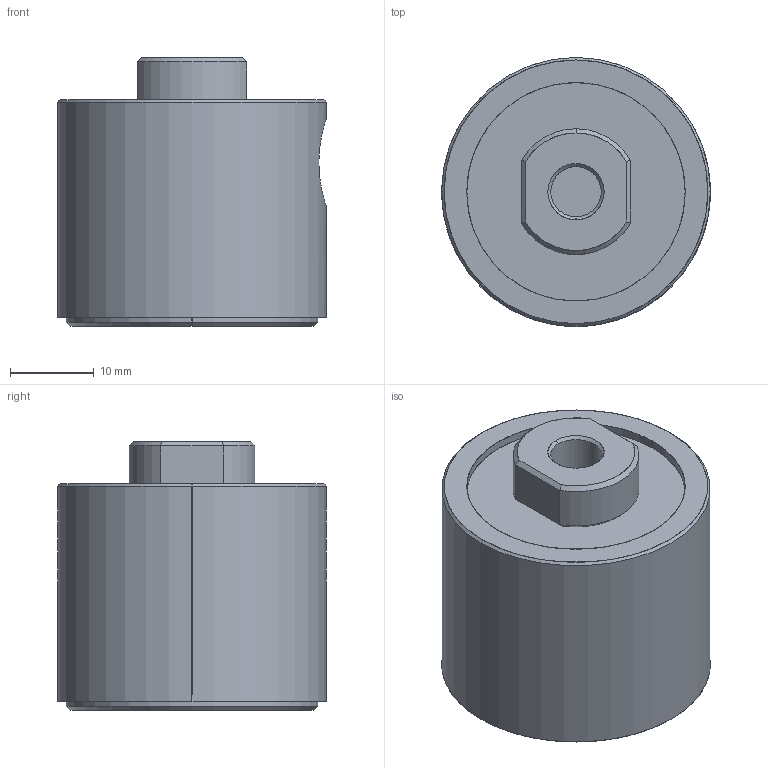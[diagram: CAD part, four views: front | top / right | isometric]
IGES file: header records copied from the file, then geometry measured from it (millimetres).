
Start section: SolidWorks IGES file using analytic representation for surfaces
Global section: file name: X:\11_SW2020-Inv2020\00_全2021-11新製品まで\q\QLPU200NR\qlpu200nr.IGS; native system: SolidWorks 2020; preprocessor: SolidWorks 2020; author: ImaoCorp; date: 211021.173201; units: millimetre
Bounding box: 32 x 32 x 32 mm (x, y, z)
Surface area: 9793.3 mm2 (no closed solid volume)
Topology: 0 solids, 0 shells, 93 faces, 1834 edges, 1834 vertices
Faces by surface type: revolution 70, bspline 23
